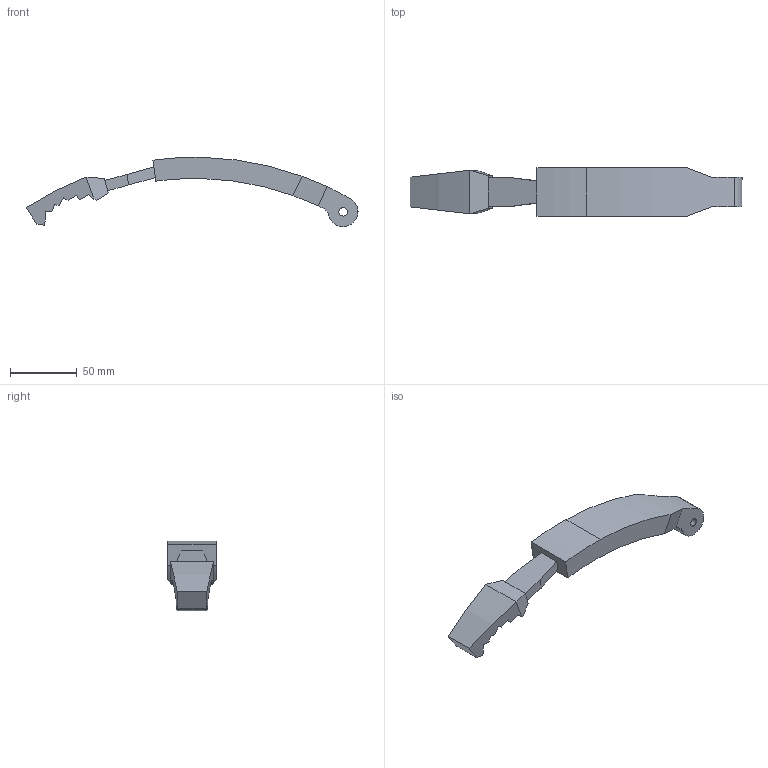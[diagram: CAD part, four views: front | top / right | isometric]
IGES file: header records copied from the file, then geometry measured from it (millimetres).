
Start section: 3D InterOp IGES (Version 21 0 3), Spatial Corp. Copyright (c) 1999-2007.
Global section: file name: CSR UTILITY ARMS - 20140501.igs; native system: Spatial Corp.; preprocessor: 3D InterOp GENERIC/IGES 3.0; author: Noname; organization: Noname; date: 20140501.111016; units: inch
Bounding box: 248.25 x 36.51 x 51.84 mm (x, y, z)
Surface area: 25374.5 mm2 (no closed solid volume)
Topology: 0 solids, 0 shells, 48 faces, 242 edges, 242 vertices
Faces by surface type: extrusion 35, revolution 12, bspline 1
